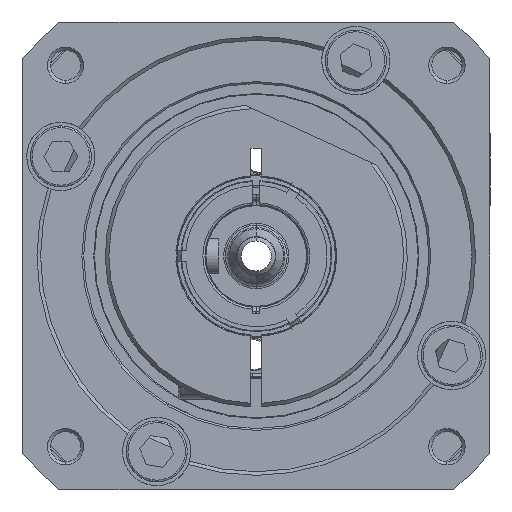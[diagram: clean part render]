
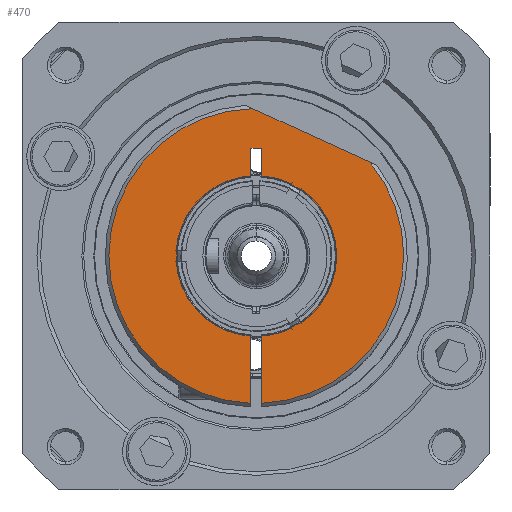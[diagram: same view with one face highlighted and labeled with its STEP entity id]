
A CAD part, left-side view. The second image highlights one B-rep face of the part: STEP entity #470.
In plain terms, the highlighted planar face has unit normal (-1, 0, 0).
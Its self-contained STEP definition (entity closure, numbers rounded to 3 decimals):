
#470 = ADVANCED_FACE ( 'NONE', ( #25775 ), #57031, .F. ) ;
#728 = ORIENTED_EDGE ( 'NONE', *, *, #19578, .T. ) ;
#922 = VERTEX_POINT ( 'NONE', #11473 ) ;
#1559 = VERTEX_POINT ( 'NONE', #64000 ) ;
#2061 = EDGE_CURVE ( 'NONE', #63151, #33085, #58049, .T. ) ;
#3014 = CIRCLE ( 'NONE', #58932, 11.1 ) ;
#3772 = CARTESIAN_POINT ( 'NONE',  ( -103.32, 0., 0. ) ) ;
#4079 = EDGE_CURVE ( 'NONE', #51489, #1559, #53798, .T. ) ;
#4176 = ORIENTED_EDGE ( 'NONE', *, *, #59716, .T. ) ;
#4280 = DIRECTION ( 'NONE',  ( 0., 0., 1. ) ) ;
#4845 = EDGE_CURVE ( 'NONE', #45624, #51489, #47766, .T. ) ;
#6424 = DIRECTION ( 'NONE',  ( 0., 0., -1. ) ) ;
#6942 = CARTESIAN_POINT ( 'NONE',  ( -103.32, 1.483, 20.948 ) ) ;
#7288 = ORIENTED_EDGE ( 'NONE', *, *, #50193, .T. ) ;
#7303 = EDGE_CURVE ( 'NONE', #922, #45624, #36494, .T. ) ;
#7412 = DIRECTION ( 'NONE',  ( 1., 0., 0. ) ) ;
#8232 = ORIENTED_EDGE ( 'NONE', *, *, #7303, .T. ) ;
#11473 = CARTESIAN_POINT ( 'NONE',  ( -103.32, -0.75, 11.075 ) ) ;
#13201 = VECTOR ( 'NONE', #20157, 1000. ) ;
#13949 = DIRECTION ( 'NONE',  ( 0., 0., -1. ) ) ;
#14538 = LINE ( 'NONE', #51949, #61441 ) ;
#14651 = LINE ( 'NONE', #35218, #31254 ) ;
#16921 = DIRECTION ( 'NONE',  ( 0., 0., -1. ) ) ;
#16955 = DIRECTION ( 'NONE',  ( 0., 0.91, 0.414 ) ) ;
#19385 = CARTESIAN_POINT ( 'NONE',  ( -103.32, -0.75, -11.075 ) ) ;
#19510 = CARTESIAN_POINT ( 'NONE',  ( -103.32, 0.487, 20.494 ) ) ;
#19578 = EDGE_CURVE ( 'NONE', #24143, #22586, #3014, .T. ) ;
#20157 = DIRECTION ( 'NONE',  ( 0., 0., 1. ) ) ;
#20364 = VECTOR ( 'NONE', #16955, 1000. ) ;
#21058 = CARTESIAN_POINT ( 'NONE',  ( -103.32, 0.75, 11.075 ) ) ;
#21184 = CARTESIAN_POINT ( 'NONE',  ( -103.32, 0.75, 15. ) ) ;
#21190 = DIRECTION ( 'NONE',  ( 1., 0., 0. ) ) ;
#22057 = ORIENTED_EDGE ( 'NONE', *, *, #4845, .T. ) ;
#22286 = AXIS2_PLACEMENT_3D ( 'NONE', #53126, #21190, #6424 ) ;
#22586 = VERTEX_POINT ( 'NONE', #21058 ) ;
#23143 = DIRECTION ( 'NONE',  ( 0., -1., 0. ) ) ;
#24143 = VERTEX_POINT ( 'NONE', #55863 ) ;
#24152 = ORIENTED_EDGE ( 'NONE', *, *, #56692, .T. ) ;
#24172 = AXIS2_PLACEMENT_3D ( 'NONE', #48115, #37805, #37469 ) ;
#24419 = AXIS2_PLACEMENT_3D ( 'NONE', #36725, #47372, #66969 ) ;
#25775 = FACE_OUTER_BOUND ( 'NONE', #60530, .T. ) ;
#28230 = CARTESIAN_POINT ( 'NONE',  ( -103.32, -0.75, 15. ) ) ;
#29010 = CARTESIAN_POINT ( 'NONE',  ( -103.32, 0.75, 15. ) ) ;
#31254 = VECTOR ( 'NONE', #13949, 1000. ) ;
#31832 = LINE ( 'NONE', #21184, #13201 ) ;
#32087 = VECTOR ( 'NONE', #23143, 1000. ) ;
#33085 = VERTEX_POINT ( 'NONE', #47378 ) ;
#34949 = DIRECTION ( 'NONE',  ( 0., 0., -1. ) ) ;
#35126 = LINE ( 'NONE', #29010, #32087 ) ;
#35218 = CARTESIAN_POINT ( 'NONE',  ( -103.32, -0.75, 15. ) ) ;
#36494 = CIRCLE ( 'NONE', #22286, 11.1 ) ;
#36725 = CARTESIAN_POINT ( 'NONE',  ( -103.32, 0., 0. ) ) ;
#37469 = DIRECTION ( 'NONE',  ( 0., 0., -1. ) ) ;
#37805 = DIRECTION ( 'NONE',  ( -1., 0., 0. ) ) ;
#40085 = DIRECTION ( 'NONE',  ( -1., 0., 0. ) ) ;
#44848 = AXIS2_PLACEMENT_3D ( 'NONE', #3772, #40085, #34949 ) ;
#45624 = VERTEX_POINT ( 'NONE', #19385 ) ;
#46194 = VERTEX_POINT ( 'NONE', #67182 ) ;
#47372 = DIRECTION ( 'NONE',  ( 1., 0., 0. ) ) ;
#47378 = CARTESIAN_POINT ( 'NONE',  ( -103.32, 0.75, -20.486 ) ) ;
#47766 = LINE ( 'NONE', #28230, #67877 ) ;
#48115 = CARTESIAN_POINT ( 'NONE',  ( -103.32, 0., 0. ) ) ;
#49974 = DIRECTION ( 'NONE',  ( 0., 0., -1. ) ) ;
#50193 = EDGE_CURVE ( 'NONE', #64910, #922, #14651, .T. ) ;
#51489 = VERTEX_POINT ( 'NONE', #61591 ) ;
#51949 = CARTESIAN_POINT ( 'NONE',  ( -103.32, 0.75, 15. ) ) ;
#53126 = CARTESIAN_POINT ( 'NONE',  ( -103.32, 0., 0. ) ) ;
#53659 = LINE ( 'NONE', #6942, #20364 ) ;
#53798 = CIRCLE ( 'NONE', #24172, 20.5 ) ;
#54468 = CARTESIAN_POINT ( 'NONE',  ( -103.32, 0., 0. ) ) ;
#55547 = EDGE_CURVE ( 'NONE', #22586, #46194, #14538, .T. ) ;
#55863 = CARTESIAN_POINT ( 'NONE',  ( -103.32, 0.75, -11.075 ) ) ;
#56692 = EDGE_CURVE ( 'NONE', #33085, #24143, #31832, .T. ) ;
#57031 = PLANE ( 'NONE',  #24419 ) ;
#58049 = CIRCLE ( 'NONE', #44848, 20.5 ) ;
#58153 = ORIENTED_EDGE ( 'NONE', *, *, #67543, .T. ) ;
#58932 = AXIS2_PLACEMENT_3D ( 'NONE', #54468, #7412, #49974 ) ;
#59716 = EDGE_CURVE ( 'NONE', #46194, #64910, #35126, .T. ) ;
#60530 = EDGE_LOOP ( 'NONE', ( #65995, #58153, #65216, #24152, #728, #67054, #4176, #7288, #8232, #22057 ) ) ;
#61441 = VECTOR ( 'NONE', #4280, 1000. ) ;
#61591 = CARTESIAN_POINT ( 'NONE',  ( -103.32, -0.75, -20.486 ) ) ;
#63151 = VERTEX_POINT ( 'NONE', #19510 ) ;
#64000 = CARTESIAN_POINT ( 'NONE',  ( -103.32, -15.778, 13.089 ) ) ;
#64910 = VERTEX_POINT ( 'NONE', #67524 ) ;
#65216 = ORIENTED_EDGE ( 'NONE', *, *, #2061, .T. ) ;
#65995 = ORIENTED_EDGE ( 'NONE', *, *, #4079, .T. ) ;
#66969 = DIRECTION ( 'NONE',  ( 0., 0., -1. ) ) ;
#67054 = ORIENTED_EDGE ( 'NONE', *, *, #55547, .T. ) ;
#67182 = CARTESIAN_POINT ( 'NONE',  ( -103.32, 0.75, 15. ) ) ;
#67524 = CARTESIAN_POINT ( 'NONE',  ( -103.32, -0.75, 15. ) ) ;
#67543 = EDGE_CURVE ( 'NONE', #1559, #63151, #53659, .T. ) ;
#67877 = VECTOR ( 'NONE', #16921, 1000. ) ;
